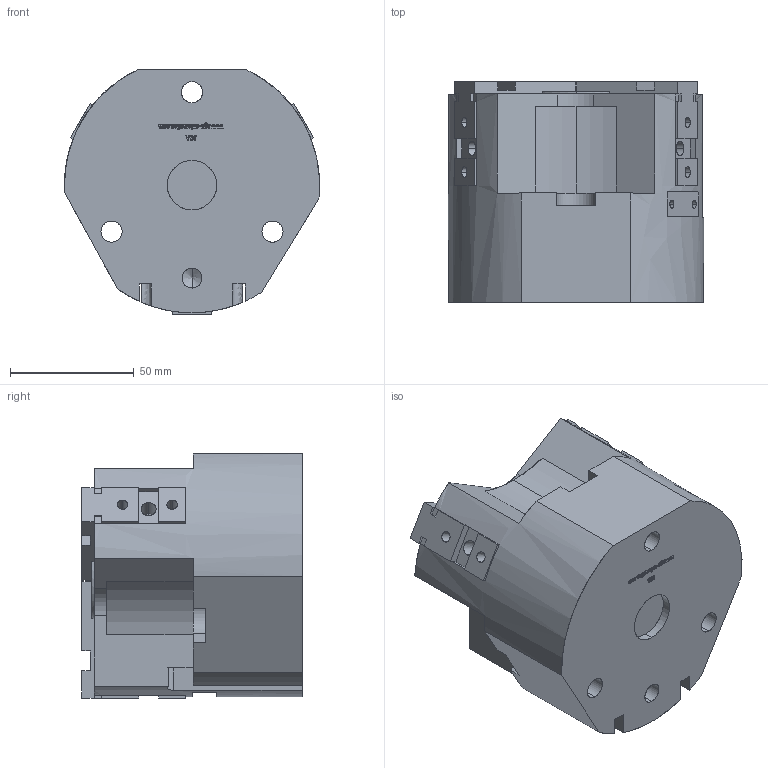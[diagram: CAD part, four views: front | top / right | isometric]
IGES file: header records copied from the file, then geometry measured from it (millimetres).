
Start section: SolidWorks IGES file using analytic representation for surfaces
Global section: file name: C:\Documents and Settings\SGA\Bureau\ROMAIN\OPE 105-3\OPE 105-3 fermé.IGS; native system: SolidWorks 2010; preprocessor: SolidWorks 2010; author: SGA; date: 110928.095554; units: millimetre
Bounding box: 102.99 x 89 x 98.52 mm (x, y, z)
Surface area: 85748.2 mm2 (no closed solid volume)
Topology: 0 solids, 0 shells, 923 faces, 10512 edges, 10466 vertices
Faces by surface type: bspline 801, revolution 122
